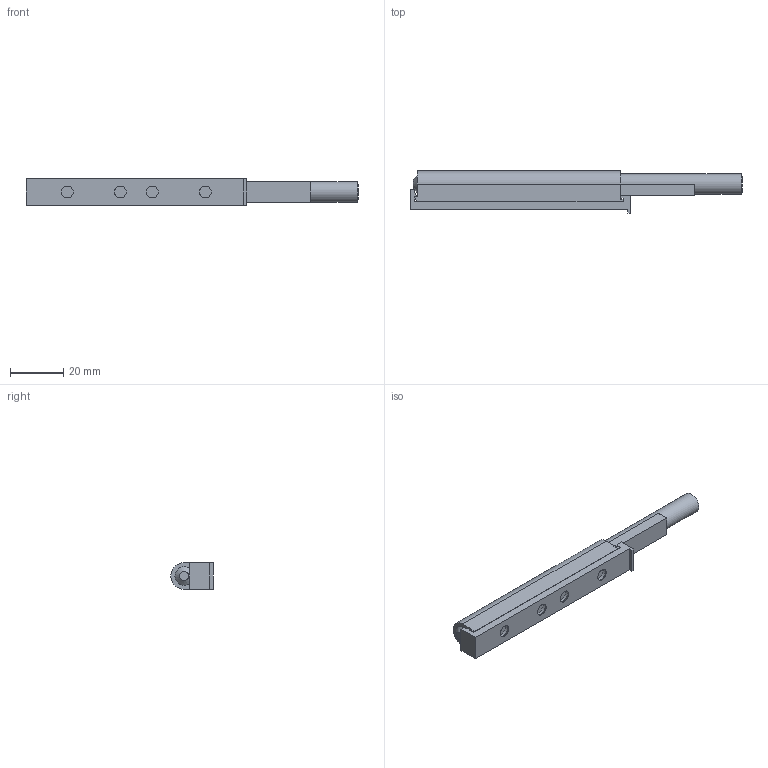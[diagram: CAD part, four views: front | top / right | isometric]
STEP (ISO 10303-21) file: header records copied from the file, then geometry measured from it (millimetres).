
FILE_DESCRIPTION (( 'STEP AP214' ), '1' );
FILE_NAME ('Pistek pro bezuchytkove - na nasroubovani 399708 a 399709_3D.STEP', '2020-01-13T12:03:24', ( '' ), ( '' ), 'SwSTEP 2.0', 'SolidWorks 2019', '' );
FILE_SCHEMA (( 'AUTOMOTIVE_DESIGN' ));
Length unit declared in the file: millimetre
Products named in the file (3): drzak pistku; Pistek šroubovaci; Pistek pro bezuchytkove - na nasroubovani 399708 a 399709_3D
Assembly tree (2 placements, depth 2):
  Pistek pro bezuchytkove - na nasroubovani 399708 a 399709_3D
    Pistek šroubovaci
    drzak pistku
Bounding box: 125 x 15.9 x 10 mm (x, y, z)
Volume: 12692.7 mm3; surface area: 6923.4 mm2
Topology: 2 solids, 2 shells, 57 faces, 141 edges, 91 vertices
Faces by surface type: plane 40, cylinder 12, cone 5
Full cylindrical faces by diameter (mm): 4.5 x4, 6 x1, 7.3 x4, 7.7 x1
Entity records: 1721 total; most frequent: CARTESIAN_POINT 279, DIRECTION 277, ORIENTED_EDGE 252, EDGE_CURVE 126, LINE 99, VECTOR 99, VERTEX_POINT 91, AXIS2_PLACEMENT_3D 89
